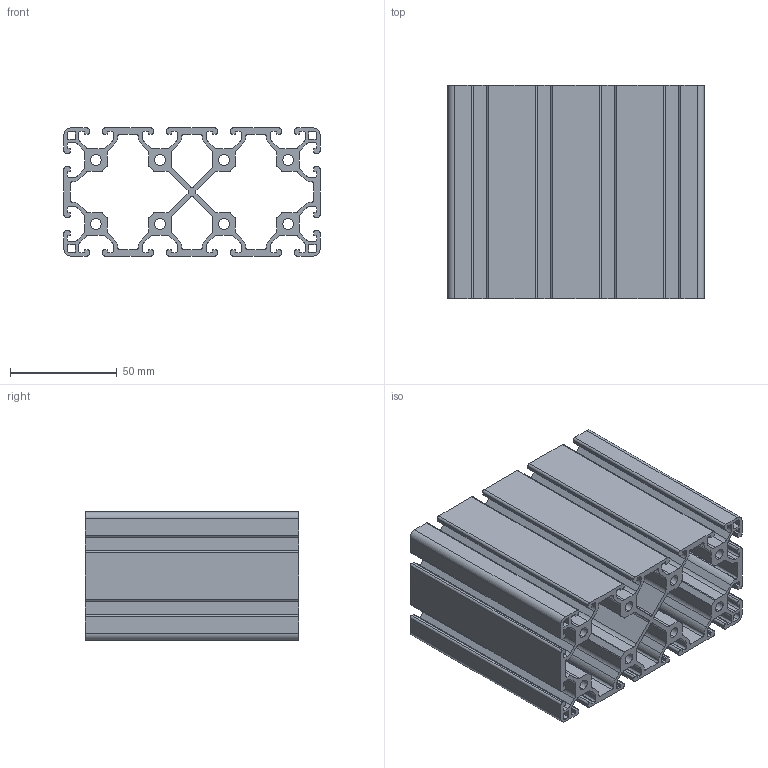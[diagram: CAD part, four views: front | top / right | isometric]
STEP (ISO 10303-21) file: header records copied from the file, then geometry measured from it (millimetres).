
FILE_DESCRIPTION (( 'STEP AP203' ), '1' );
FILE_NAME ('0106P12060L.STEP', '2024-02-27T14:22:17', ( 'Windows-Benutzer' ), ( '' ), 'SwSTEP 2.0', 'SolidWorks 2023', '' );
FILE_SCHEMA (( 'CONFIG_CONTROL_DESIGN' ));
Length unit declared in the file: millimetre
Products named in the file (1): 0106P12060L
Bounding box: 120 x 100 x 60 mm (x, y, z)
Volume: 181899.4 mm3; surface area: 152471 mm2
Topology: 1 solids, 1 shells, 547 faces, 1635 edges, 1090 vertices
Faces by surface type: cylinder 281, plane 266
Entity records: 18712 total; most frequent: DIRECTION 3293, CARTESIAN_POINT 3273, ORIENTED_EDGE 3270, EDGE_CURVE 1635, AXIS2_PLACEMENT_3D 1110, VERTEX_POINT 1090, LINE 1073, VECTOR 1073
